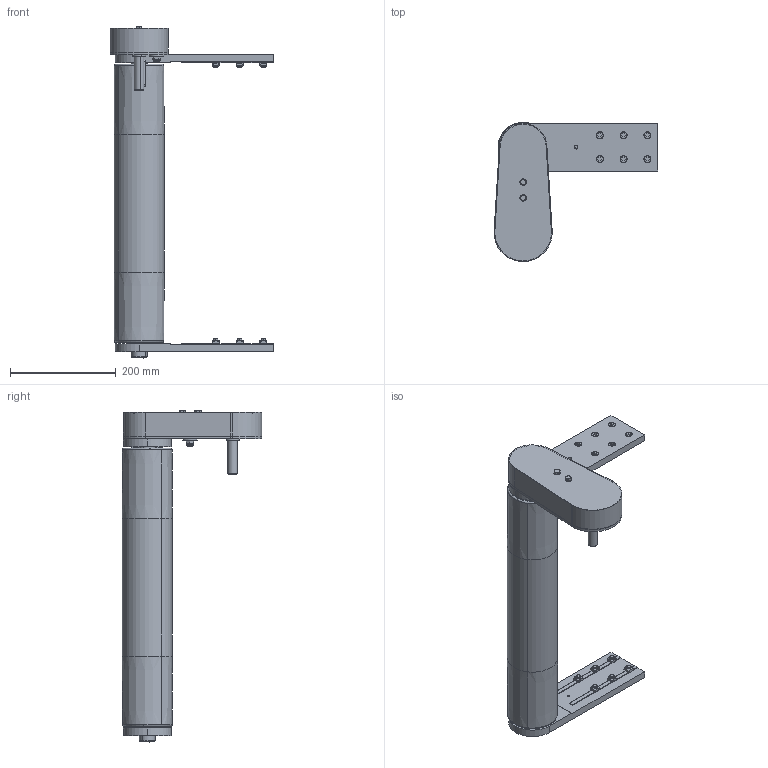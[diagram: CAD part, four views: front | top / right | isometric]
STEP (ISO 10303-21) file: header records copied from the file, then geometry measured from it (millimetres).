
FILE_DESCRIPTION (( 'STEP AP203' ), '1' );
FILE_NAME ('084.095.KTB.44.500.step', '2013-02-28T12:03:27', ( '' ), ( '' ), 'SwSTEP 2.0', 'SolidWorks 2011', '' );
FILE_SCHEMA (( 'CONFIG_CONTROL_DESIGN' ));
Products named in the file (28): 084.095.KTB.44.500; Hex Screw GradeC_ALUSIC_ISO 4018 - M8 x 20-NS; Hex Screw GradeC_ALUSIC_ISO 4018 - M6 x 50-NS; ANELLI ELASTICI PER ESTERNI UNI 7435-75_Circlip DIN 471 - 30 x 1.5; CHIAVETTE_A 8x7x25 UNI 6604-69; CHIAVETTE_A 6x6x50 UNI 6604-69; Specchiatura084.302.000 DADI ALUSIC 13x13_084.302.004; 084.301.000 VITI ALUSIC_084.301.003; 084.302.000 DADI ALUSIC 13x13_084.302.004; 084.821.003; 084.810.006; Circlip for Shafts normal_din_Circlip DIN 471 - 8 x 0.8; Plain Washer XLarge Grade C_ALUSIC_Washer ISO 7094 - 8; Torque nut 01_ALUSIC_ISO 7040-M8-S; CUSCINETTI A SFERE_608-2RS; 084.810.008; 084.816.108_084.816.108; 084.813.004; 084.809.001; 084.821.002; 084.809.003; 084.813.002; 084.812.003; 084.802.019_084.802.019; 084.802.034_084.802.034; 084.808.002_084.808.002; 084.810.003; 084.808.003_084.808.003
Assembly tree (59 placements, depth 3):
  084.095.KTB.44.500
    Hex Screw GradeC_ALUSIC_ISO 4018 - M8 x 20-NS  x4
    084.301.000 VITI ALUSIC_084.301.003  x12
    CHIAVETTE_A 8x7x25 UNI 6604-69  x3
    084.302.000 DADI ALUSIC 13x13_084.302.004  x6
    084.809.001
    084.821.002  x2
    084.809.003
    ANELLI ELASTICI PER ESTERNI UNI 7435-75_Circlip DIN 471 - 30 x 1.5  x2
    084.816.108_084.816.108
    084.808.002_084.808.002
    Hex Screw GradeC_ALUSIC_ISO 4018 - M6 x 50-NS  x2
    084.810.006
      Torque nut 01_ALUSIC_ISO 7040-M8-S
      Circlip for Shafts normal_din_Circlip DIN 471 - 8 x 0.8
      CUSCINETTI A SFERE_608-2RS  x3
      084.810.008
      Plain Washer XLarge Grade C_ALUSIC_Washer ISO 7094 - 8
    084.810.003  x2
    Specchiatura084.302.000 DADI ALUSIC 13x13_084.302.004  x6
    084.812.003
    084.802.034_084.802.034
    084.802.019_084.802.019
    CHIAVETTE_A 6x6x50 UNI 6604-69
    084.813.004
    084.808.003_084.808.003
    084.821.003
    084.813.002
Bounding box: 310 x 263.87 x 627.88 mm (x, y, z)
Volume: 2214327.5 mm3; surface area: 990559.7 mm2
Topology: 63 solids, 64 shells, 2824 faces, 7303 edges, 4674 vertices
Faces by surface type: cylinder 1020, plane 856, cone 817, torus 122, sphere 9
Entity records: 54426 total; most frequent: CARTESIAN_POINT 9747, DIRECTION 9188, ORIENTED_EDGE 8292, EDGE_CURVE 4146, AXIS2_PLACEMENT_3D 3514, VERTEX_POINT 2669, LINE 2160, VECTOR 2160
